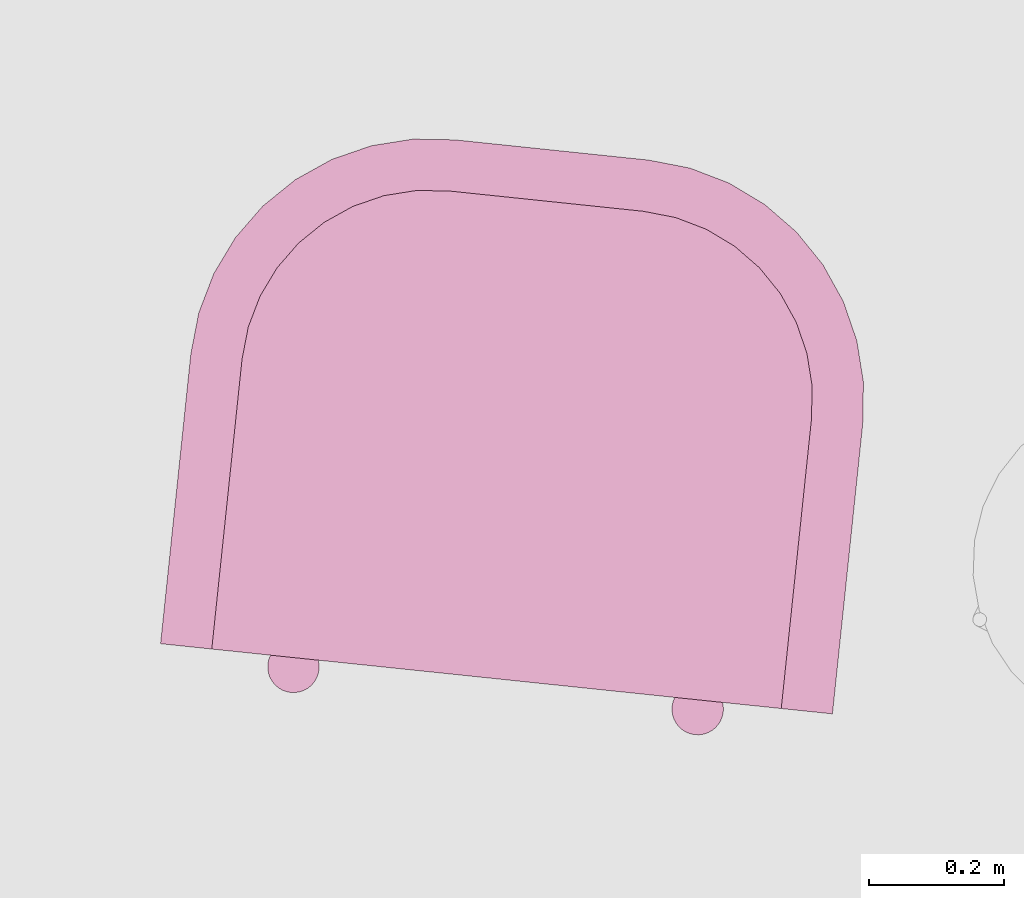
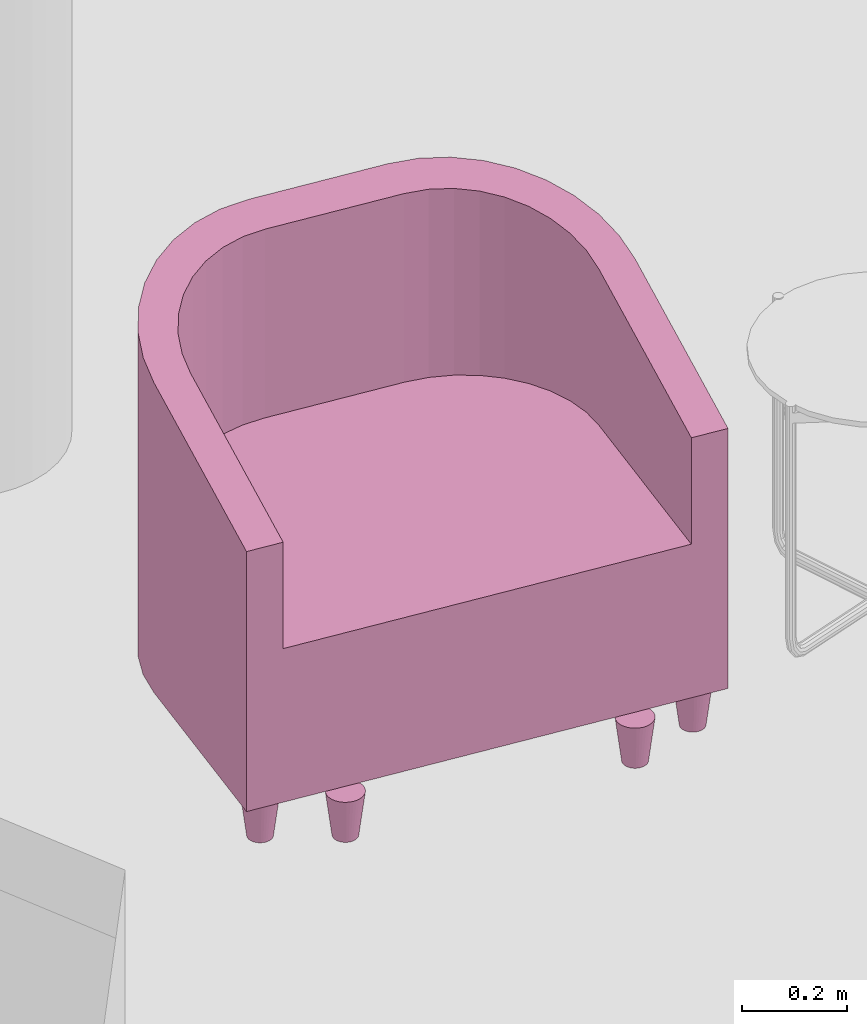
# One storey, part 30 of 52: 1 furnishing.
"""IFC2X3 building model written with IfcOpenShell, lengths in metres."""

from ifc_helpers import new_model, entity, si_unit, converted_unit, derived_unit, money_unit, direction, frame, origin_with_axes, place, context, subcontext, project, spatial, faceted_brep, source, transform, mapped, type_object, element, save


model = new_model("IFC2X3")

# Units and contexts
model_context = context("Model", 3, precision=1e-05, world=origin_with_axes(), true_north=direction((0.0, 1.0)))
body_context = subcontext(model_context, "Body", "Model", "MODEL_VIEW")
ifc_project = project(units=[si_unit("LENGTHUNIT", "METRE"), si_unit("AREAUNIT", "SQUARE_METRE"), si_unit("VOLUMEUNIT", "CUBIC_METRE"), converted_unit("PLANEANGLEUNIT", "DEGREE", entity("IfcPlaneAngleMeasure", 0.0174532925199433), si_unit("PLANEANGLEUNIT", "RADIAN"), dimensions=[0, 0, 0, 0, 0, 0, 0]), money_unit("EUR"), converted_unit("TIMEUNIT", "Year", entity("IfcTimeMeasure", 31556926.0), si_unit("TIMEUNIT", "SECOND"), dimensions=[0, 0, 1, 0, 0, 0, 0]), si_unit("MASSUNIT", "GRAM", prefix="KILO"), si_unit("THERMODYNAMICTEMPERATUREUNIT", "DEGREE_CELSIUS"), si_unit("LUMINOUSINTENSITYUNIT", "LUMEN"), si_unit("ENERGYUNIT", "JOULE", prefix="MEGA"), derived_unit("THERMALCONDUCTANCEUNIT", [(si_unit("POWERUNIT", "WATT"), 1), (si_unit("LENGTHUNIT", "METRE"), -1), (si_unit("THERMODYNAMICTEMPERATUREUNIT", "KELVIN"), -1)]), derived_unit("SPECIFICHEATCAPACITYUNIT", [(si_unit("ENERGYUNIT", "JOULE"), 1), (si_unit("MASSUNIT", "GRAM", prefix="KILO"), -1), (si_unit("THERMODYNAMICTEMPERATUREUNIT", "KELVIN"), -1)]), derived_unit("MASSDENSITYUNIT", [(si_unit("MASSUNIT", "GRAM", prefix="KILO"), 1), (si_unit("VOLUMEUNIT", "CUBIC_METRE"), -1)])], contexts=[model_context])

# Site, building, storey
site_placement = place(None, frame((-3.949935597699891, 1.740105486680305, 0.0), z_axis=(0.0, 0.0, 1.0), x_axis=(0.8799804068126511, -0.475009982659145, 0.0)))
site = spatial("IfcSite", under=ifc_project, at=site_placement, Name="Gelände", CompositionType="ELEMENT")
building_placement = place(site_placement, origin_with_axes())
building = spatial("IfcBuilding", under=site, at=building_placement, Name="Gebäude", CompositionType="ELEMENT")
storey_placement = place(building_placement, origin_with_axes())
storey = spatial("IfcBuildingStorey", under=building, at=storey_placement, Name="Erdgeschoss", CompositionType="ELEMENT", Elevation=0.0)

# Furnishing
furnishing_element_type = type_object("IfcFurnishingElementType", Name="bucket chair (1)")
shared_shape = source(origin_with_axes(), body_context, "Body", "Brep", [
    faceted_brep([(-0.47421411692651, 0.73188933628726, 0.0), (-0.4867211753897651, 0.72968400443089, 0.1016), (-0.4873, 0.7363000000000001, 0.1016), (-0.4746, 0.7363000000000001, 0.0), (-0.473068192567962, 0.7276126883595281, 0.0), (-0.485002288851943, 0.7232690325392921, 0.1016), (-0.482195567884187, 0.71725, 0.1016), (-0.478386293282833, 0.711809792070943, 0.1016), (-0.4736902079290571, 0.707113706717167, 0.1016), (-0.4682499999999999, 0.7033044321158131, 0.1016), (-0.462230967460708, 0.700497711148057, 0.1016), (-0.45581599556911, 0.698778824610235, 0.1016), (-0.4492, 0.6982000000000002, 0.1016), (-0.44258400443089, 0.698778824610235, 0.1016), (-0.436169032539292, 0.700497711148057, 0.1016), (-0.43015, 0.703304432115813, 0.1016), (-0.4247097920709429, 0.707113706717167, 0.1016), (-0.420013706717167, 0.711809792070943, 0.1016), (-0.4162044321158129, 0.71725, 0.1016), (-0.4133977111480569, 0.7232690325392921, 0.1016), (-0.4116788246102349, 0.72968400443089, 0.1016), (-0.4111, 0.7363000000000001, 0.1016), (-0.4116788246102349, 0.7429159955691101, 0.1016), (-0.4133977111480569, 0.749330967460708, 0.1016), (-0.4162044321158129, 0.7553500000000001, 0.1016), (-0.420013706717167, 0.7607902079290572, 0.1016), (-0.4247097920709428, 0.7654862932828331, 0.1016), (-0.43015, 0.7692955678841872, 0.1016), (-0.436169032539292, 0.7721022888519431, 0.1016), (-0.44258400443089, 0.7738211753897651, 0.1016), (-0.4492, 0.7744000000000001, 0.1016), (-0.45581599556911, 0.7738211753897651, 0.1016), (-0.462230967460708, 0.7721022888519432, 0.1016), (-0.46825, 0.7692955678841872, 0.1016), (-0.4736902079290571, 0.7654862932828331, 0.1016), (-0.4783862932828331, 0.7607902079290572, 0.1016), (-0.4821955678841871, 0.7553500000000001, 0.1016), (-0.4850022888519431, 0.749330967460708, 0.1016), (-0.4867211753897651, 0.7429159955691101, 0.1016), (-0.4742141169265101, 0.7407106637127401, 0.0), (-0.4730681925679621, 0.744987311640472, 0.0), (-0.4711970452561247, 0.7490000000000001, 0.0), (-0.468657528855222, 0.7526268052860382, 0.0), (-0.4655268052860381, 0.7557575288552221, 0.0), (-0.4619, 0.7582970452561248, 0.0), (-0.457887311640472, 0.7601681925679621, 0.0), (-0.45361066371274, 0.7613141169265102, 0.0), (-0.4492, 0.7617, 0.0), (-0.44478933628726, 0.7613141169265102, 0.0), (-0.440512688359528, 0.7601681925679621, 0.0), (-0.4365, 0.7582970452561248, 0.0), (-0.4328731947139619, 0.7557575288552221, 0.0), (-0.429742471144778, 0.7526268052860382, 0.0), (-0.4272029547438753, 0.7490000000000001, 0.0), (-0.4253318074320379, 0.744987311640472, 0.0), (-0.4241858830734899, 0.7407106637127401, 0.0), (-0.4238, 0.7363000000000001, 0.0), (-0.4241858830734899, 0.73188933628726, 0.0), (-0.4253318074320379, 0.7276126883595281, 0.0), (-0.4272029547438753, 0.7236000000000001, 0.0), (-0.429742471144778, 0.719973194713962, 0.0), (-0.4328731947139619, 0.7168424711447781, 0.0), (-0.4365, 0.7143029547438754, 0.0), (-0.440512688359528, 0.712431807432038, 0.0), (-0.44478933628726, 0.71128588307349, 0.0), (-0.4492, 0.7109000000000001, 0.0), (-0.45361066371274, 0.71128588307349, 0.0), (-0.457887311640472, 0.712431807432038, 0.0), (-0.4619, 0.7143029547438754, 0.0), (-0.4655268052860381, 0.7168424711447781, 0.0), (-0.468657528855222, 0.719973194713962, 0.0), (-0.4711970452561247, 0.7236000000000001, 0.0)], [[[0, 1, 2, 3]], [[4, 5, 1, 0]], [[1, 5, 6, 7, 8, 9, 10, 11, 12, 13, 14, 15, 16, 17, 18, 19, 20, 21, 22, 23, 24, 25, 26, 27, 28, 29, 30, 31, 32, 33, 34, 35, 36, 37, 38, 2]], [[3, 2, 38, 39]], [[0, 3, 39, 40, 41, 42, 43, 44, 45, 46, 47, 48, 49, 50, 51, 52, 53, 54, 55, 56, 57, 58, 59, 60, 61, 62, 63, 64, 65, 66, 67, 68, 69, 70, 71, 4]], [[71, 6, 5, 4]], [[70, 7, 6, 71]], [[69, 8, 7, 70]], [[68, 9, 8, 69]], [[67, 10, 9, 68]], [[66, 11, 10, 67]], [[65, 12, 11, 66]], [[64, 13, 12, 65]], [[63, 14, 13, 64]], [[62, 15, 14, 63]], [[61, 16, 15, 62]], [[60, 17, 16, 61]], [[59, 18, 17, 60]], [[58, 19, 18, 59]], [[57, 20, 19, 58]], [[56, 21, 20, 57]], [[55, 22, 21, 56]], [[54, 23, 22, 55]], [[53, 24, 23, 54]], [[52, 25, 24, 53]], [[51, 26, 25, 52]], [[50, 27, 26, 51]], [[49, 28, 27, 50]], [[48, 29, 28, 49]], [[47, 30, 29, 48]], [[46, 31, 30, 47]], [[45, 32, 31, 46]], [[44, 33, 32, 45]], [[43, 34, 33, 44]], [[42, 35, 34, 43]], [[41, 36, 35, 42]], [[40, 37, 36, 41]], [[39, 38, 37, 40]]]),
    faceted_brep([(0.42418588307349, 0.73188933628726, 0.0), (0.4116788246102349, 0.72968400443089, 0.1016), (0.4111, 0.7363000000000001, 0.1016), (0.4238, 0.7363000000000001, 0.0), (0.425331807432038, 0.7276126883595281, 0.0), (0.413397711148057, 0.7232690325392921, 0.1016), (0.4162044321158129, 0.71725, 0.1016), (0.420013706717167, 0.711809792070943, 0.1016), (0.4247097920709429, 0.707113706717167, 0.1016), (0.43015, 0.7033044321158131, 0.1016), (0.436169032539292, 0.700497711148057, 0.1016), (0.44258400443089, 0.698778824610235, 0.1016), (0.4492, 0.6982000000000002, 0.1016), (0.45581599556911, 0.698778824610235, 0.1016), (0.462230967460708, 0.700497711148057, 0.1016), (0.4682499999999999, 0.703304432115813, 0.1016), (0.4736902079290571, 0.707113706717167, 0.1016), (0.478386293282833, 0.711809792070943, 0.1016), (0.482195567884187, 0.71725, 0.1016), (0.4850022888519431, 0.7232690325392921, 0.1016), (0.4867211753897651, 0.72968400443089, 0.1016), (0.4873, 0.7363000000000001, 0.1016), (0.4867211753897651, 0.7429159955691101, 0.1016), (0.4850022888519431, 0.749330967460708, 0.1016), (0.482195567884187, 0.7553500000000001, 0.1016), (0.478386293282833, 0.7607902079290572, 0.1016), (0.4736902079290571, 0.7654862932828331, 0.1016), (0.4682499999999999, 0.7692955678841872, 0.1016), (0.462230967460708, 0.7721022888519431, 0.1016), (0.45581599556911, 0.7738211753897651, 0.1016), (0.4492, 0.7744000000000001, 0.1016), (0.44258400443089, 0.7738211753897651, 0.1016), (0.436169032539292, 0.7721022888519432, 0.1016), (0.43015, 0.7692955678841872, 0.1016), (0.4247097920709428, 0.7654862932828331, 0.1016), (0.4200137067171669, 0.7607902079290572, 0.1016), (0.4162044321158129, 0.7553500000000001, 0.1016), (0.4133977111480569, 0.749330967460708, 0.1016), (0.4116788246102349, 0.7429159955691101, 0.1016), (0.4241858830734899, 0.7407106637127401, 0.0), (0.4253318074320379, 0.744987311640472, 0.0), (0.4272029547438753, 0.7490000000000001, 0.0), (0.4297424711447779, 0.7526268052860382, 0.0), (0.4328731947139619, 0.7557575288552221, 0.0), (0.4365, 0.7582970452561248, 0.0), (0.440512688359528, 0.7601681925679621, 0.0), (0.44478933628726, 0.7613141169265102, 0.0), (0.4492, 0.7617, 0.0), (0.45361066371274, 0.7613141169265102, 0.0), (0.457887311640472, 0.7601681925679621, 0.0), (0.4619, 0.7582970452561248, 0.0), (0.4655268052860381, 0.7557575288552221, 0.0), (0.468657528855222, 0.7526268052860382, 0.0), (0.4711970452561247, 0.7490000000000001, 0.0), (0.4730681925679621, 0.744987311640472, 0.0), (0.4742141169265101, 0.7407106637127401, 0.0), (0.4746, 0.7363000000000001, 0.0), (0.4742141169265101, 0.73188933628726, 0.0), (0.4730681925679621, 0.7276126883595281, 0.0), (0.4711970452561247, 0.7236000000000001, 0.0), (0.468657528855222, 0.719973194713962, 0.0), (0.4655268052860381, 0.7168424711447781, 0.0), (0.4619, 0.7143029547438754, 0.0), (0.457887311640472, 0.712431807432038, 0.0), (0.45361066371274, 0.71128588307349, 0.0), (0.4492, 0.7109000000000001, 0.0), (0.44478933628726, 0.71128588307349, 0.0), (0.440512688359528, 0.712431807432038, 0.0), (0.4365, 0.7143029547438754, 0.0), (0.4328731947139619, 0.7168424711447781, 0.0), (0.429742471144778, 0.719973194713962, 0.0), (0.4272029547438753, 0.7236000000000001, 0.0)], [[[0, 1, 2, 3]], [[4, 5, 1, 0]], [[1, 5, 6, 7, 8, 9, 10, 11, 12, 13, 14, 15, 16, 17, 18, 19, 20, 21, 22, 23, 24, 25, 26, 27, 28, 29, 30, 31, 32, 33, 34, 35, 36, 37, 38, 2]], [[3, 2, 38, 39]], [[0, 3, 39, 40, 41, 42, 43, 44, 45, 46, 47, 48, 49, 50, 51, 52, 53, 54, 55, 56, 57, 58, 59, 60, 61, 62, 63, 64, 65, 66, 67, 68, 69, 70, 71, 4]], [[71, 6, 5, 4]], [[70, 7, 6, 71]], [[69, 8, 7, 70]], [[68, 9, 8, 69]], [[67, 10, 9, 68]], [[66, 11, 10, 67]], [[65, 12, 11, 66]], [[64, 13, 12, 65]], [[63, 14, 13, 64]], [[62, 15, 14, 63]], [[61, 16, 15, 62]], [[60, 17, 16, 61]], [[59, 18, 17, 60]], [[58, 19, 18, 59]], [[57, 20, 19, 58]], [[56, 21, 20, 57]], [[55, 22, 21, 56]], [[54, 23, 22, 55]], [[53, 24, 23, 54]], [[52, 25, 24, 53]], [[51, 26, 25, 52]], [[50, 27, 26, 51]], [[49, 28, 27, 50]], [[48, 29, 28, 49]], [[47, 30, 29, 48]], [[46, 31, 30, 47]], [[45, 32, 31, 46]], [[44, 33, 32, 45]], [[43, 34, 33, 44]], [[42, 35, 34, 43]], [[41, 36, 35, 42]], [[40, 37, 36, 41]], [[39, 38, 37, 40]]]),
    faceted_brep([(-0.3258141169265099, 0.7963893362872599, 0.0), (-0.338321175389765, 0.7941840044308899, 0.1016), (-0.3388999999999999, 0.8008, 0.1016), (-0.3261999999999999, 0.8008, 0.0), (-0.3246681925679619, 0.792112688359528, 0.0), (-0.3366022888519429, 0.787769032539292, 0.1016), (-0.333795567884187, 0.78175, 0.1016), (-0.3299862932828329, 0.7763097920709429, 0.1016), (-0.325290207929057, 0.7716137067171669, 0.1016), (-0.3198499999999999, 0.767804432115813, 0.1016), (-0.3138309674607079, 0.7649977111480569, 0.1016), (-0.3074159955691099, 0.7632788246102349, 0.1016), (-0.3007999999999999, 0.7627, 0.1016), (-0.2941840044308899, 0.7632788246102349, 0.1016), (-0.2877690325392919, 0.7649977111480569, 0.1016), (-0.2817499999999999, 0.7678044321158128, 0.1016), (-0.2763097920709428, 0.7716137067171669, 0.1016), (-0.2716137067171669, 0.7763097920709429, 0.1016), (-0.2678044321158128, 0.78175, 0.1016), (-0.2649977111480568, 0.787769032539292, 0.1016), (-0.2632788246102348, 0.7941840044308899, 0.1016), (-0.2626999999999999, 0.8008, 0.1016), (-0.2632788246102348, 0.80741599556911, 0.1016), (-0.2649977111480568, 0.8138309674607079, 0.1016), (-0.2678044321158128, 0.81985, 0.1016), (-0.2716137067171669, 0.825290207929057, 0.1016), (-0.2763097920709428, 0.829986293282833, 0.1016), (-0.2817499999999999, 0.8337955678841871, 0.1016), (-0.2877690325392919, 0.8366022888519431, 0.1016), (-0.2941840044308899, 0.838321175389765, 0.1016), (-0.3007999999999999, 0.8389, 0.1016), (-0.3074159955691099, 0.838321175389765, 0.1016), (-0.3138309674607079, 0.8366022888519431, 0.1016), (-0.3198499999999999, 0.8337955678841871, 0.1016), (-0.3252902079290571, 0.829986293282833, 0.1016), (-0.329986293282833, 0.825290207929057, 0.1016), (-0.333795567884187, 0.81985, 0.1016), (-0.336602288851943, 0.8138309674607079, 0.1016), (-0.338321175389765, 0.80741599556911, 0.1016), (-0.32581411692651, 0.80521066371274, 0.0), (-0.324668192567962, 0.8094873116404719, 0.0), (-0.3227970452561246, 0.8135, 0.0), (-0.320257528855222, 0.8171268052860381, 0.0), (-0.317126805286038, 0.820257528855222, 0.0), (-0.3134999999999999, 0.8227970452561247, 0.0), (-0.3094873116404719, 0.824668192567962, 0.0), (-0.3052106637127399, 0.8258141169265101, 0.0), (-0.3007999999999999, 0.8261999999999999, 0.0), (-0.2963893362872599, 0.8258141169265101, 0.0), (-0.2921126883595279, 0.824668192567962, 0.0), (-0.2880999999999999, 0.8227970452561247, 0.0), (-0.2844731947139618, 0.820257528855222, 0.0), (-0.2813424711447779, 0.8171268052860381, 0.0), (-0.2788029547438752, 0.8135, 0.0), (-0.2769318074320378, 0.8094873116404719, 0.0), (-0.2757858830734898, 0.80521066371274, 0.0), (-0.2753999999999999, 0.8008, 0.0), (-0.2757858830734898, 0.7963893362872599, 0.0), (-0.2769318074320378, 0.792112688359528, 0.0), (-0.2788029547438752, 0.7881, 0.0), (-0.2813424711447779, 0.7844731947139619, 0.0), (-0.2844731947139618, 0.781342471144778, 0.0), (-0.2880999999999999, 0.7788029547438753, 0.0), (-0.2921126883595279, 0.7769318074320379, 0.0), (-0.2963893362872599, 0.77578588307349, 0.0), (-0.3007999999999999, 0.7754, 0.0), (-0.3052106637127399, 0.77578588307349, 0.0), (-0.3094873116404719, 0.7769318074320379, 0.0), (-0.3134999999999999, 0.7788029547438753, 0.0), (-0.317126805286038, 0.781342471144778, 0.0), (-0.3202575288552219, 0.7844731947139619, 0.0), (-0.3227970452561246, 0.7881, 0.0)], [[[0, 1, 2, 3]], [[4, 5, 1, 0]], [[1, 5, 6, 7, 8, 9, 10, 11, 12, 13, 14, 15, 16, 17, 18, 19, 20, 21, 22, 23, 24, 25, 26, 27, 28, 29, 30, 31, 32, 33, 34, 35, 36, 37, 38, 2]], [[3, 2, 38, 39]], [[0, 3, 39, 40, 41, 42, 43, 44, 45, 46, 47, 48, 49, 50, 51, 52, 53, 54, 55, 56, 57, 58, 59, 60, 61, 62, 63, 64, 65, 66, 67, 68, 69, 70, 71, 4]], [[71, 6, 5, 4]], [[70, 7, 6, 71]], [[69, 8, 7, 70]], [[68, 9, 8, 69]], [[67, 10, 9, 68]], [[66, 11, 10, 67]], [[65, 12, 11, 66]], [[64, 13, 12, 65]], [[63, 14, 13, 64]], [[62, 15, 14, 63]], [[61, 16, 15, 62]], [[60, 17, 16, 61]], [[59, 18, 17, 60]], [[58, 19, 18, 59]], [[57, 20, 19, 58]], [[56, 21, 20, 57]], [[55, 22, 21, 56]], [[54, 23, 22, 55]], [[53, 24, 23, 54]], [[52, 25, 24, 53]], [[51, 26, 25, 52]], [[50, 27, 26, 51]], [[49, 28, 27, 50]], [[48, 29, 28, 49]], [[47, 30, 29, 48]], [[46, 31, 30, 47]], [[45, 32, 31, 46]], [[44, 33, 32, 45]], [[43, 34, 33, 44]], [[42, 35, 34, 43]], [[41, 36, 35, 42]], [[40, 37, 36, 41]], [[39, 38, 37, 40]]]),
    faceted_brep([(0.2757858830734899, 0.7963893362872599, 0.0), (0.2632788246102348, 0.7941840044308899, 0.1016), (0.2626999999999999, 0.8008, 0.1016), (0.2753999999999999, 0.8008, 0.0), (0.2769318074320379, 0.792112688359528, 0.0), (0.2649977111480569, 0.787769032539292, 0.1016), (0.2678044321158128, 0.78175, 0.1016), (0.2716137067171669, 0.7763097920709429, 0.1016), (0.2763097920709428, 0.7716137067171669, 0.1016), (0.2817499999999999, 0.767804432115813, 0.1016), (0.2877690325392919, 0.7649977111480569, 0.1016), (0.2941840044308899, 0.7632788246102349, 0.1016), (0.3007999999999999, 0.7627, 0.1016), (0.3074159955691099, 0.7632788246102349, 0.1016), (0.3138309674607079, 0.7649977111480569, 0.1016), (0.3198499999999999, 0.7678044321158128, 0.1016), (0.325290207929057, 0.7716137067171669, 0.1016), (0.3299862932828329, 0.7763097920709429, 0.1016), (0.333795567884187, 0.78175, 0.1016), (0.336602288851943, 0.787769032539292, 0.1016), (0.338321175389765, 0.7941840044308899, 0.1016), (0.3388999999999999, 0.8008, 0.1016), (0.338321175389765, 0.80741599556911, 0.1016), (0.336602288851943, 0.8138309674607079, 0.1016), (0.333795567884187, 0.81985, 0.1016), (0.3299862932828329, 0.825290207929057, 0.1016), (0.3252902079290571, 0.829986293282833, 0.1016), (0.3198499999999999, 0.8337955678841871, 0.1016), (0.3138309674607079, 0.8366022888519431, 0.1016), (0.3074159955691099, 0.838321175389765, 0.1016), (0.3007999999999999, 0.8389, 0.1016), (0.2941840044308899, 0.838321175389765, 0.1016), (0.2877690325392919, 0.8366022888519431, 0.1016), (0.2817499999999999, 0.8337955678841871, 0.1016), (0.2763097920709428, 0.829986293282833, 0.1016), (0.2716137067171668, 0.825290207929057, 0.1016), (0.2678044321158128, 0.81985, 0.1016), (0.2649977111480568, 0.8138309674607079, 0.1016), (0.2632788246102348, 0.80741599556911, 0.1016), (0.2757858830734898, 0.80521066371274, 0.0), (0.2769318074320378, 0.8094873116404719, 0.0), (0.2788029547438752, 0.8135, 0.0), (0.2813424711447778, 0.8171268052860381, 0.0), (0.2844731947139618, 0.820257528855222, 0.0), (0.2880999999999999, 0.8227970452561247, 0.0), (0.2921126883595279, 0.824668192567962, 0.0), (0.2963893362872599, 0.8258141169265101, 0.0), (0.3007999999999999, 0.8261999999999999, 0.0), (0.3052106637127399, 0.8258141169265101, 0.0), (0.3094873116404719, 0.824668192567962, 0.0), (0.3134999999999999, 0.8227970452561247, 0.0), (0.317126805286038, 0.820257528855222, 0.0), (0.3202575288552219, 0.8171268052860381, 0.0), (0.3227970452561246, 0.8135, 0.0), (0.324668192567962, 0.8094873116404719, 0.0), (0.32581411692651, 0.80521066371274, 0.0), (0.3261999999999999, 0.8008, 0.0), (0.32581411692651, 0.7963893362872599, 0.0), (0.324668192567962, 0.792112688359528, 0.0), (0.3227970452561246, 0.7881, 0.0), (0.3202575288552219, 0.7844731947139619, 0.0), (0.317126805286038, 0.781342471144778, 0.0), (0.3134999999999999, 0.7788029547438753, 0.0), (0.3094873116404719, 0.7769318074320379, 0.0), (0.3052106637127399, 0.77578588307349, 0.0), (0.3007999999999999, 0.7754, 0.0), (0.2963893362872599, 0.77578588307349, 0.0), (0.2921126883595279, 0.7769318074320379, 0.0), (0.2880999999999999, 0.7788029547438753, 0.0), (0.2844731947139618, 0.781342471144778, 0.0), (0.2813424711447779, 0.7844731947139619, 0.0), (0.2788029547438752, 0.7881, 0.0)], [[[0, 1, 2, 3]], [[4, 5, 1, 0]], [[1, 5, 6, 7, 8, 9, 10, 11, 12, 13, 14, 15, 16, 17, 18, 19, 20, 21, 22, 23, 24, 25, 26, 27, 28, 29, 30, 31, 32, 33, 34, 35, 36, 37, 38, 2]], [[3, 2, 38, 39]], [[0, 3, 39, 40, 41, 42, 43, 44, 45, 46, 47, 48, 49, 50, 51, 52, 53, 54, 55, 56, 57, 58, 59, 60, 61, 62, 63, 64, 65, 66, 67, 68, 69, 70, 71, 4]], [[71, 6, 5, 4]], [[70, 7, 6, 71]], [[69, 8, 7, 70]], [[68, 9, 8, 69]], [[67, 10, 9, 68]], [[66, 11, 10, 67]], [[65, 12, 11, 66]], [[64, 13, 12, 65]], [[63, 14, 13, 64]], [[62, 15, 14, 63]], [[61, 16, 15, 62]], [[60, 17, 16, 61]], [[59, 18, 17, 60]], [[58, 19, 18, 59]], [[57, 20, 19, 58]], [[56, 21, 20, 57]], [[55, 22, 21, 56]], [[54, 23, 22, 55]], [[53, 24, 23, 54]], [[52, 25, 24, 53]], [[51, 26, 25, 52]], [[50, 27, 26, 51]], [[49, 28, 27, 50]], [[48, 29, 28, 49]], [[47, 30, 29, 48]], [[46, 31, 30, 47]], [[45, 32, 31, 46]], [[44, 33, 32, 45]], [[43, 34, 33, 44]], [[42, 35, 34, 43]], [[41, 36, 35, 42]], [[40, 37, 36, 41]], [[39, 38, 37, 40]]]),
    faceted_brep([(0.5, 0.7871, 0.1016), (0.5, 0.7871, 0.7034971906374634), (0.5, 0.3556, 0.8191172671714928), (0.5, 0.3556, 0.1016), (0.4238, 0.7871, 0.1016), (0.4238, 0.7871, 0.7034971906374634), (0.4238, 0.3556000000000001, 0.8191172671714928), (0.4195552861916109, 0.3070826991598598, 0.8321174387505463), (0.4069501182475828, 0.2600395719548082, 0.8447226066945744), (0.3863674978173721, 0.2159000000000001, 0.8565497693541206), (0.3584328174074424, 0.176005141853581, 0.8672395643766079), (0.323994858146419, 0.1415671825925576, 0.8764671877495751), (0.2841, 0.1136325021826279, 0.8839522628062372), (0.2399604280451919, 0.09304988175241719, 0.8894673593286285), (0.1929173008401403, 0.08044471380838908, 0.8928449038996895), (0.1444, 0.0762, 0.8939822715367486), (-0.1444000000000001, 0.07620000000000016, 0.8939822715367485), (-0.1929173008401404, 0.08044471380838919, 0.8928449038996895), (-0.2399604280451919, 0.0930498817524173, 0.8894673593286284), (-0.2841, 0.1136325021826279, 0.8839522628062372), (-0.3239948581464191, 0.1415671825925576, 0.8764671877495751), (-0.3584328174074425, 0.176005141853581, 0.8672395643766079), (-0.3863674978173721, 0.2159000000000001, 0.8565497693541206), (-0.4069501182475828, 0.2600395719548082, 0.8447226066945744), (-0.4195552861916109, 0.3070826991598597, 0.8321174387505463), (-0.4238, 0.3556, 0.8191172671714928), (-0.4238, 0.7871, 0.7034971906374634), (-0.5, 0.7871, 0.7034971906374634), (-0.4999999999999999, 0.3555999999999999, 0.8191172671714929), (-0.494597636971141, 0.2938507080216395, 0.8356629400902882), (-0.4785546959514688, 0.2339776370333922, 0.8517058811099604), (-0.4523586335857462, 0.1778, 0.8667586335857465), (-0.4168054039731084, 0.1270247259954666, 0.8803638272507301), (-0.3729752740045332, 0.08319459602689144, 0.8921080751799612), (-0.3221999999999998, 0.04764136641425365, 0.9016345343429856), (-0.2660223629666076, 0.02144530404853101, 0.9086537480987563), (-0.2061492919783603, 0.005402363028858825, 0.9129524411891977), (-0.1444, 0.0, 0.9144000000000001), (0.0, 0.0, 0.9144000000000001), (0.1444000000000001, 0.0, 0.9144000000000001), (0.2061492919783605, 0.005402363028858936, 0.9129524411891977), (0.2660223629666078, 0.02144530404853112, 0.9086537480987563), (0.3222, 0.04764136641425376, 0.9016345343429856), (0.3729752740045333, 0.08319459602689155, 0.892108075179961), (0.4168054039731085, 0.1270247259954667, 0.8803638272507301), (0.4523586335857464, 0.1778000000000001, 0.8667586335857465), (0.4785546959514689, 0.2339776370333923, 0.8517058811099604), (0.4945976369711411, 0.2938507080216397, 0.8356629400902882), (0.4945976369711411, 0.2938507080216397, 0.1016), (0.4785546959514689, 0.2339776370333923, 0.1016), (0.4523586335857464, 0.1778000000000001, 0.1016), (0.4168054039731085, 0.1270247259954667, 0.1016), (0.3729752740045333, 0.08319459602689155, 0.1016), (0.3222, 0.04764136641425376, 0.1016), (0.2660223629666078, 0.02144530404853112, 0.1016), (0.2061492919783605, 0.005402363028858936, 0.1016), (0.1444000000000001, 0.0, 0.1016), (0.0, 0.0, 0.1016), (-0.1444, 0.0, 0.1016), (-0.2061492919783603, 0.005402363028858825, 0.1016), (-0.2660223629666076, 0.02144530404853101, 0.1016), (-0.3221999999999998, 0.04764136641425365, 0.1016), (-0.3729752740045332, 0.08319459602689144, 0.1016), (-0.4168054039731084, 0.1270247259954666, 0.1016), (-0.4523586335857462, 0.1778, 0.1016), (-0.4785546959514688, 0.2339776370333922, 0.1016), (-0.494597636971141, 0.2938507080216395, 0.1016), (-0.4999999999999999, 0.3555999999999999, 0.1016), (-0.5, 0.7871, 0.1016), (-0.4238, 0.7871, 0.1016), (-0.4238, 0.3556, 0.1016), (-0.4195552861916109, 0.3070826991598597, 0.1016), (-0.4069501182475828, 0.2600395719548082, 0.1016), (-0.3863674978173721, 0.2159000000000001, 0.1016), (-0.3584328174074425, 0.176005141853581, 0.1016), (-0.3239948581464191, 0.1415671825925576, 0.1016), (-0.2841, 0.1136325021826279, 0.1016), (-0.2399604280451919, 0.0930498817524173, 0.1016), (-0.1929173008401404, 0.08044471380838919, 0.1016), (-0.1444000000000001, 0.07620000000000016, 0.1016), (0.1444, 0.0762, 0.1016), (0.1929173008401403, 0.08044471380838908, 0.1016), (0.2399604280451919, 0.09304988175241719, 0.1016), (0.2841, 0.1136325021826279, 0.1016), (0.323994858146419, 0.1415671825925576, 0.1016), (0.3584328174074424, 0.176005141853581, 0.1016), (0.3863674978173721, 0.2159000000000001, 0.1016), (0.4069501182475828, 0.2600395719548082, 0.1016), (0.4195552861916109, 0.3070826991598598, 0.1016), (0.4238, 0.3556000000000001, 0.1016)], [[[0, 1, 2, 3]], [[4, 5, 1, 0]], [[1, 5, 6, 7, 8, 9, 10, 11, 12, 13, 14, 15, 16, 17, 18, 19, 20, 21, 22, 23, 24, 25, 26, 27, 28, 29, 30, 31, 32, 33, 34, 35, 36, 37, 38, 39, 40, 41, 42, 43, 44, 45, 46, 47, 2]], [[3, 2, 47, 48]], [[0, 3, 48, 49, 50, 51, 52, 53, 54, 55, 56, 57, 58, 59, 60, 61, 62, 63, 64, 65, 66, 67, 68, 69, 70, 71, 72, 73, 74, 75, 76, 77, 78, 79, 80, 81, 82, 83, 84, 85, 86, 87, 88, 89, 4]], [[89, 6, 5, 4]], [[88, 7, 6, 89]], [[87, 8, 7, 88]], [[86, 9, 8, 87]], [[85, 10, 9, 86]], [[84, 11, 10, 85]], [[83, 12, 11, 84]], [[82, 13, 12, 83]], [[81, 14, 13, 82]], [[80, 15, 14, 81]], [[79, 16, 15, 80]], [[78, 17, 16, 79]], [[77, 18, 17, 78]], [[76, 19, 18, 77]], [[75, 20, 19, 76]], [[74, 21, 20, 75]], [[73, 22, 21, 74]], [[72, 23, 22, 73]], [[71, 24, 23, 72]], [[70, 25, 24, 71]], [[69, 26, 25, 70]], [[68, 27, 26, 69]], [[67, 28, 27, 68]], [[66, 29, 28, 67]], [[65, 30, 29, 66]], [[64, 31, 30, 65]], [[63, 32, 31, 64]], [[62, 33, 32, 63]], [[61, 34, 33, 62]], [[60, 35, 34, 61]], [[59, 36, 35, 60]], [[58, 37, 36, 59]], [[57, 38, 37, 58]], [[56, 39, 38, 57]], [[55, 40, 39, 56]], [[54, 41, 40, 55]], [[53, 42, 41, 54]], [[52, 43, 42, 53]], [[51, 44, 43, 52]], [[50, 45, 44, 51]], [[49, 46, 45, 50]], [[48, 47, 46, 49]]]),
    faceted_brep([(0.4238, 0.7871, 0.1016), (0.4238, 0.7871, 0.4572000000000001), (0.4238, 0.3556000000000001, 0.4572000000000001), (0.4238, 0.3556000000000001, 0.1016), (-0.4238, 0.7871, 0.1016), (-0.4238, 0.7871, 0.4572000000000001), (-0.4238, 0.3556, 0.4572000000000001), (-0.4195552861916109, 0.3070826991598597, 0.4572000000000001), (-0.4069501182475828, 0.2600395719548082, 0.4572000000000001), (-0.3863674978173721, 0.2159000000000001, 0.4572000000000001), (-0.3584328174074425, 0.176005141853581, 0.4572000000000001), (-0.3239948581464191, 0.1415671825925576, 0.4572000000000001), (-0.2841, 0.1136325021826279, 0.4572000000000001), (-0.2399604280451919, 0.0930498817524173, 0.4572000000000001), (-0.1929173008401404, 0.08044471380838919, 0.4572000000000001), (-0.1444000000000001, 0.07620000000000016, 0.4572000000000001), (0.1444, 0.0762, 0.4572000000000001), (0.1929173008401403, 0.08044471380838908, 0.4572000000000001), (0.2399604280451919, 0.09304988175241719, 0.4572000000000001), (0.2841, 0.1136325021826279, 0.4572000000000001), (0.323994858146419, 0.1415671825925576, 0.4572000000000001), (0.3584328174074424, 0.176005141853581, 0.4572000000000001), (0.3863674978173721, 0.2159000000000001, 0.4572000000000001), (0.4069501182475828, 0.2600395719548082, 0.4572000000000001), (0.4195552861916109, 0.3070826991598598, 0.4572000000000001), (0.4195552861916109, 0.3070826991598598, 0.1016), (0.4069501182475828, 0.2600395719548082, 0.1016), (0.3863674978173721, 0.2159000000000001, 0.1016), (0.3584328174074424, 0.176005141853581, 0.1016), (0.323994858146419, 0.1415671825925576, 0.1016), (0.2841, 0.1136325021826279, 0.1016), (0.2399604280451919, 0.09304988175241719, 0.1016), (0.1929173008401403, 0.08044471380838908, 0.1016), (0.1444, 0.0762, 0.1016), (-0.1444000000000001, 0.07620000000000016, 0.1016), (-0.1929173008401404, 0.08044471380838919, 0.1016), (-0.2399604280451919, 0.0930498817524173, 0.1016), (-0.2841, 0.1136325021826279, 0.1016), (-0.3239948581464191, 0.1415671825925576, 0.1016), (-0.3584328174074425, 0.176005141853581, 0.1016), (-0.3863674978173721, 0.2159000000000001, 0.1016), (-0.4069501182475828, 0.2600395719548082, 0.1016), (-0.4195552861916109, 0.3070826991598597, 0.1016), (-0.4238, 0.3556, 0.1016)], [[[0, 1, 2, 3]], [[4, 5, 1, 0]], [[1, 5, 6, 7, 8, 9, 10, 11, 12, 13, 14, 15, 16, 17, 18, 19, 20, 21, 22, 23, 24, 2]], [[3, 2, 24, 25]], [[0, 3, 25, 26, 27, 28, 29, 30, 31, 32, 33, 34, 35, 36, 37, 38, 39, 40, 41, 42, 43, 4]], [[43, 6, 5, 4]], [[42, 7, 6, 43]], [[41, 8, 7, 42]], [[40, 9, 8, 41]], [[39, 10, 9, 40]], [[38, 11, 10, 39]], [[37, 12, 11, 38]], [[36, 13, 12, 37]], [[35, 14, 13, 36]], [[34, 15, 14, 35]], [[33, 16, 15, 34]], [[32, 17, 16, 33]], [[31, 18, 17, 32]], [[30, 19, 18, 31]], [[29, 20, 19, 30]], [[28, 21, 20, 29]], [[27, 22, 21, 28]], [[26, 23, 22, 27]], [[25, 24, 23, 26]]]),
])
furnishing_placement = place(storey_placement, frame((23.51449461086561, 6.407328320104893, 0.0), z_axis=(0.0, 0.0, 1.0), x_axis=(-0.9245679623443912, -0.3810171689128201, 0.0)))
element("IfcFurnishingElement", 1, at=furnishing_placement, inside=storey, type_object=furnishing_element_type, Name="Objekt-0069", context=body_context, shape_type="MappedRepresentation", body=[
    mapped(shared_shape, transform((0.0, 0.0, 0.0))),
])

save(model, "model.ifc")
